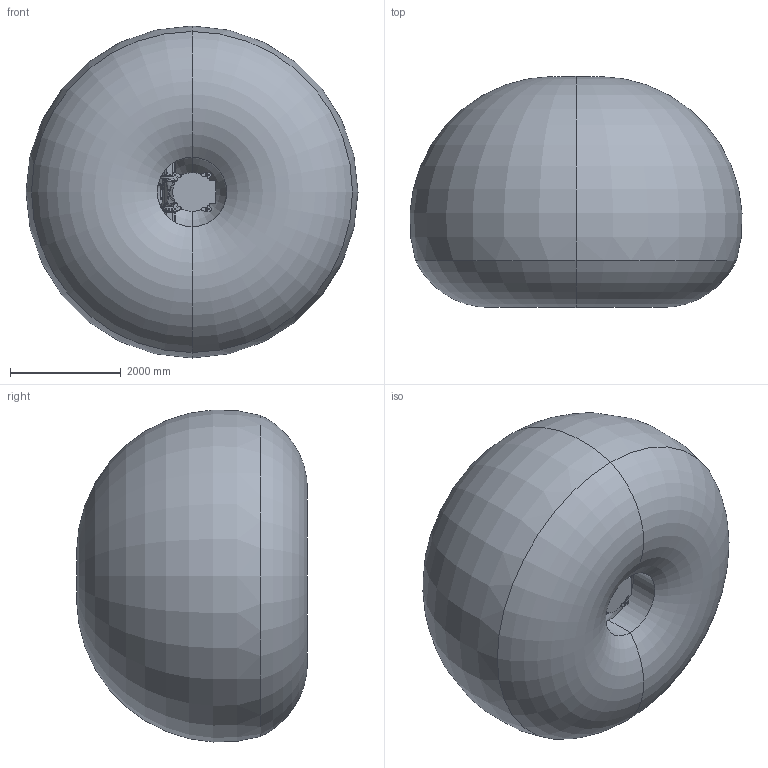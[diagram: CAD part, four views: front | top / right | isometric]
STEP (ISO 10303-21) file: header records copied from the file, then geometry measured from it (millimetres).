
FILE_DESCRIPTION (( 'STEP AP214' ), '1' );
FILE_NAME ('SMART-5 NJ-165-3.0 (3D-STEP).STEP', '2011-03-31T12:37:50', ( '' ), ( '' ), 'SwSTEP 2.0', 'SolidWorks 2007', '' );
FILE_SCHEMA (( 'AUTOMOTIVE_DESIGN' ));
Length unit declared in the file: millimetre
Products named in the file (16): SMART-5 NJ-165-3.0_p06; SMART-5 NJ-165-3.0_p05; SMART-5 NJ-165-3.0_p08; SMART-5 NJ-165-3.0_p07; SMART-5 NJ-165-3.0_p10; SMART-5 NJ-165-3.0_p09; SMART-5 NJ-165-3.0_CR82350050_SM; SMART-5 NJ-165-3.0_p11; SMART-5 NJ-165-3.0_CR82350090_SM; SMART-5 NJ-165-3.0_CR82350080_SM; Operation Area SMART-5 NJ-165-3.0; SMART-5 NJ-165-3.0 (3D-STEP); SMART-5 NJ-165-3.0_p01; SMART-5 NJ-165-3.0_p04; SMART-5 NJ-165-3.0_p03; SMART-5 NJ-165-3.0_p02
Assembly tree (18 placements, depth 2):
  SMART-5 NJ-165-3.0 (3D-STEP)
    SMART-5 NJ-165-3.0_CR82350090_SM
    SMART-5 NJ-165-3.0_CR82350080_SM  x2
    SMART-5 NJ-165-3.0_CR82350050_SM  x3
    SMART-5 NJ-165-3.0_p04
    SMART-5 NJ-165-3.0_p03
    SMART-5 NJ-165-3.0_p11
    SMART-5 NJ-165-3.0_p07
    Operation Area SMART-5 NJ-165-3.0
    SMART-5 NJ-165-3.0_p01
    SMART-5 NJ-165-3.0_p08
    SMART-5 NJ-165-3.0_p09
    SMART-5 NJ-165-3.0_p02
    SMART-5 NJ-165-3.0_p10
    SMART-5 NJ-165-3.0_p06
    SMART-5 NJ-165-3.0_p05
Bounding box: 5993.33 x 4166.93 x 5993.33 mm (x, y, z)
Volume: 82402993585.9 mm3; surface area: 126724575.9 mm2
Topology: 18 solids, 24 shells, 3978 faces, 10549 edges, 6816 vertices
Faces by surface type: plane 1689, cylinder 1521, bspline 411, cone 239, torus 98, sphere 20
Entity records: 161198 total; most frequent: CARTESIAN_POINT 62663, ORIENTED_EDGE 19340, DIRECTION 17563, EDGE_CURVE 9670, VERTEX_POINT 6318, AXIS2_PLACEMENT_3D 6275, VECTOR 5013, LINE 5013
